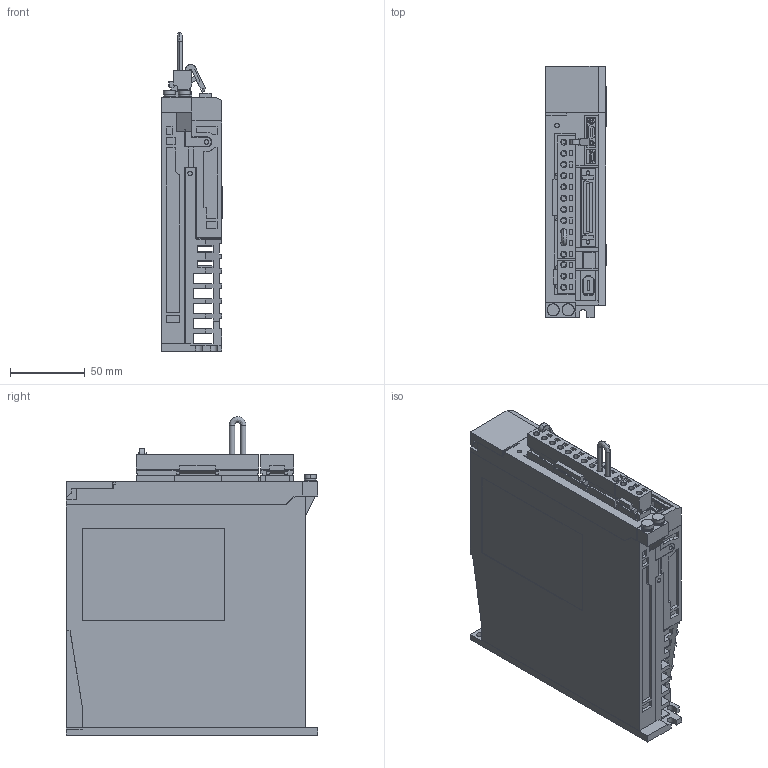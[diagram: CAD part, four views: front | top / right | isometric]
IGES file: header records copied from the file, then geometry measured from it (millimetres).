
Start section: SolidWorks IGES file using analytic representation for surfaces
Global section: file name: D:\YASKAWA\sgdxs_2r8a00a.IGS; native system: SolidWorks 2006 by SolidWorks Corporation; preprocessor: SolidWorks 2006 by SolidWorks Corporation; author: yamanouchi; date: 210219.085037; units: millimetre
Bounding box: 40.5 x 168 x 213 mm (x, y, z)
Surface area: 169566.3 mm2 (no closed solid volume)
Topology: 0 solids, 0 shells, 1665 faces, 13288 edges, 13288 vertices
Faces by surface type: bspline 1445, revolution 220
